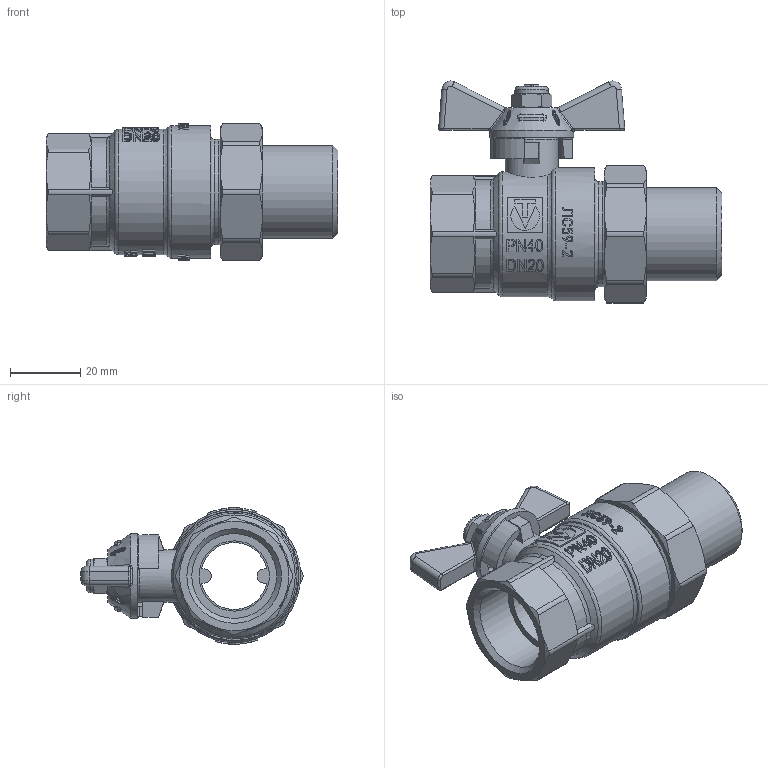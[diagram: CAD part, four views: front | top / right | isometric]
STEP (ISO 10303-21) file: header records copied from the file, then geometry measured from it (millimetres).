
FILE_DESCRIPTION(('STEP AP203'), '1');
FILE_NAME('VT.227S.NW.05', '', ('UNSPECIFIED'), ('UNSPECIFIED'), 'C3D Converter', 'C3D Toolkit', '');
FILE_SCHEMA(('CONFIG_CONTROL_DESIGN'));
Length unit declared in the file: millimetre
Products named in the file (1): ВР.491816.016.000-01 СБ
Bounding box: 83.02 x 63.17 x 39.18 mm (x, y, z)
Volume: 50639.7 mm3; surface area: 21088.9 mm2
Topology: 1 solids, 1 shells, 1913 faces, 5407 edges, 3559 vertices
Faces by surface type: plane 1487, extrusion 179, cylinder 117, cone 78, bspline 32, torus 20
Full cylindrical faces by diameter (mm): 6 x1, 8 x1, 9.5 x1, 10.5 x1, 12 x1, 15 x1, 20 x2, 24 x1, 24.118 x1, 26.441 x1, 27 x1, 29.9 x1, 35.6 x1, 37.8 x1
Entity records: 70572 total; most frequent: CARTESIAN_POINT 28918, ORIENTED_EDGE 10692, DIRECTION 6466, EDGE_CURVE 5346, VERTEX_POINT 3548, VECTOR 2234, AXIS2_PLACEMENT_3D 2116, LINE 2055
